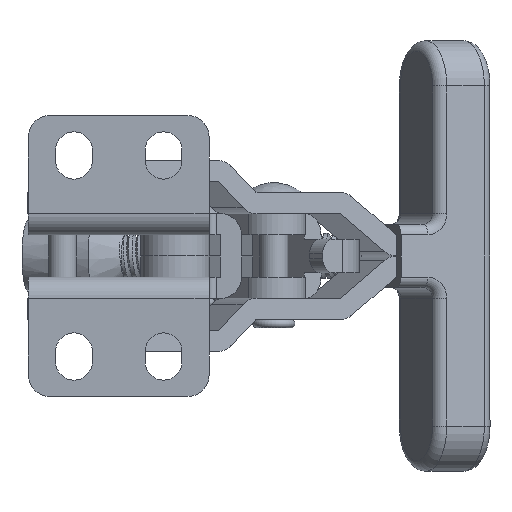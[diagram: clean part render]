
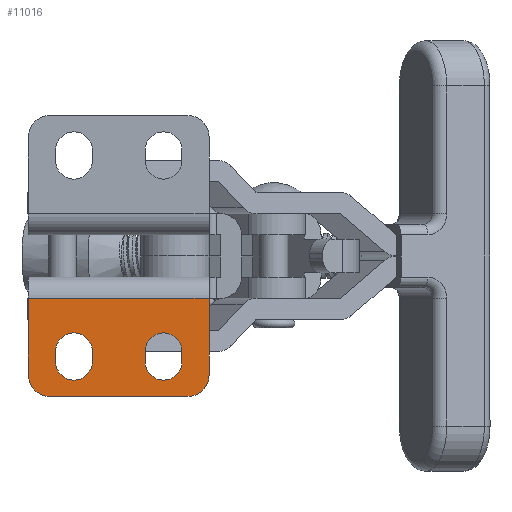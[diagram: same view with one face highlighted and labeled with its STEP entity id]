
A CAD part, front view. The second image highlights one B-rep face of the part: STEP entity #11016.
In plain terms, the highlighted planar face has unit normal (0, -1, 0).
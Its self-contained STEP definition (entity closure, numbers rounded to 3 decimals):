
#823=FACE_BOUND('',#1807,.T.);
#824=FACE_BOUND('',#1808,.T.);
#902=PLANE('',#11871);
#1183=FACE_OUTER_BOUND('',#1806,.T.);
#1806=EDGE_LOOP('',(#7596,#7597,#7598,#7599,#7600,#7601));
#1807=EDGE_LOOP('',(#7602,#7603,#7604,#7605));
#1808=EDGE_LOOP('',(#7606,#7607,#7608,#7609));
#2511=LINE('',#15115,#3444);
#2527=LINE('',#15157,#3460);
#2531=LINE('',#15165,#3464);
#2532=LINE('',#15169,#3465);
#2533=LINE('',#15172,#3466);
#2534=LINE('',#15174,#3467);
#2535=LINE('',#15177,#3468);
#2536=LINE('',#15179,#3469);
#3444=VECTOR('',#12680,1000.);
#3460=VECTOR('',#12724,1000.);
#3464=VECTOR('',#12732,1000.);
#3465=VECTOR('',#12735,1000.);
#3466=VECTOR('',#12738,1000.);
#3467=VECTOR('',#12739,1000.);
#3468=VECTOR('',#12742,1000.);
#3469=VECTOR('',#12743,1000.);
#4342=CIRCLE('',#11811,2.6);
#4344=CIRCLE('',#11814,2.6);
#4383=CIRCLE('',#11872,3.);
#4384=CIRCLE('',#11873,3.);
#4385=CIRCLE('',#11874,2.6);
#4386=CIRCLE('',#11875,2.6);
#4633=VERTEX_POINT('',#14967);
#4634=VERTEX_POINT('',#14968);
#4637=VERTEX_POINT('',#14976);
#4638=VERTEX_POINT('',#14977);
#4699=VERTEX_POINT('',#15112);
#4700=VERTEX_POINT('',#15114);
#4711=VERTEX_POINT('',#15155);
#4712=VERTEX_POINT('',#15156);
#4715=VERTEX_POINT('',#15166);
#4716=VERTEX_POINT('',#15168);
#4717=VERTEX_POINT('',#15171);
#4718=VERTEX_POINT('',#15173);
#4719=VERTEX_POINT('',#15176);
#4720=VERTEX_POINT('',#15178);
#5774=EDGE_CURVE('',#4633,#4634,#4342,.T.);
#5778=EDGE_CURVE('',#4637,#4638,#4344,.T.);
#5844=EDGE_CURVE('',#4699,#4700,#2511,.T.);
#5865=EDGE_CURVE('',#4711,#4712,#2527,.T.);
#5870=EDGE_CURVE('',#4699,#4711,#2531,.T.);
#5871=EDGE_CURVE('',#4715,#4712,#4383,.T.);
#5872=EDGE_CURVE('',#4715,#4716,#2532,.T.);
#5873=EDGE_CURVE('',#4700,#4716,#4384,.T.);
#5874=EDGE_CURVE('',#4634,#4717,#2533,.T.);
#5875=EDGE_CURVE('',#4718,#4633,#2534,.T.);
#5876=EDGE_CURVE('',#4717,#4718,#4385,.T.);
#5877=EDGE_CURVE('',#4638,#4719,#2535,.T.);
#5878=EDGE_CURVE('',#4720,#4637,#2536,.T.);
#5879=EDGE_CURVE('',#4719,#4720,#4386,.T.);
#7596=ORIENTED_EDGE('',*,*,#5844,.F.);
#7597=ORIENTED_EDGE('',*,*,#5870,.T.);
#7598=ORIENTED_EDGE('',*,*,#5865,.T.);
#7599=ORIENTED_EDGE('',*,*,#5871,.F.);
#7600=ORIENTED_EDGE('',*,*,#5872,.T.);
#7601=ORIENTED_EDGE('',*,*,#5873,.F.);
#7602=ORIENTED_EDGE('',*,*,#5874,.F.);
#7603=ORIENTED_EDGE('',*,*,#5774,.F.);
#7604=ORIENTED_EDGE('',*,*,#5875,.F.);
#7605=ORIENTED_EDGE('',*,*,#5876,.F.);
#7606=ORIENTED_EDGE('',*,*,#5877,.F.);
#7607=ORIENTED_EDGE('',*,*,#5778,.F.);
#7608=ORIENTED_EDGE('',*,*,#5878,.F.);
#7609=ORIENTED_EDGE('',*,*,#5879,.F.);
#11016=ADVANCED_FACE('',(#1183,#823,#824),#902,.F.);
#11811=AXIS2_PLACEMENT_3D('',#14969,#12555,#12556);
#11814=AXIS2_PLACEMENT_3D('',#14978,#12563,#12564);
#11871=AXIS2_PLACEMENT_3D('',#15164,#12730,#12731);
#11872=AXIS2_PLACEMENT_3D('',#15167,#12733,#12734);
#11873=AXIS2_PLACEMENT_3D('',#15170,#12736,#12737);
#11874=AXIS2_PLACEMENT_3D('',#15175,#12740,#12741);
#11875=AXIS2_PLACEMENT_3D('',#15180,#12744,#12745);
#12555=DIRECTION('center_axis',(0.,-1.,0.));
#12556=DIRECTION('ref_axis',(-1.,0.,0.));
#12563=DIRECTION('center_axis',(0.,-1.,0.));
#12564=DIRECTION('ref_axis',(-1.,0.,0.));
#12680=DIRECTION('',(0.,0.,-1.));
#12724=DIRECTION('',(0.,0.,-1.));
#12730=DIRECTION('center_axis',(0.,1.,0.));
#12731=DIRECTION('ref_axis',(-1.,0.,0.));
#12732=DIRECTION('',(-1.,0.,0.));
#12733=DIRECTION('center_axis',(0.,1.,0.));
#12734=DIRECTION('ref_axis',(-1.,0.,0.));
#12735=DIRECTION('',(1.,0.,0.));
#12736=DIRECTION('center_axis',(0.,1.,0.));
#12737=DIRECTION('ref_axis',(-1.,0.,0.));
#12738=DIRECTION('',(0.,0.,1.));
#12739=DIRECTION('',(0.,0.,-1.));
#12740=DIRECTION('center_axis',(0.,-1.,0.));
#12741=DIRECTION('ref_axis',(-1.,0.,0.));
#12742=DIRECTION('',(0.,0.,1.));
#12743=DIRECTION('',(0.,0.,-1.));
#12744=DIRECTION('center_axis',(0.,-1.,0.));
#12745=DIRECTION('ref_axis',(-1.,0.,0.));
#14967=CARTESIAN_POINT('',(-21.75,0.,-9.));
#14968=CARTESIAN_POINT('',(-16.55,0.,-9.));
#14969=CARTESIAN_POINT('Origin',(-19.15,0.,-9.));
#14976=CARTESIAN_POINT('',(-9.05,0.,-9.));
#14977=CARTESIAN_POINT('',(-3.85,0.,-9.));
#14978=CARTESIAN_POINT('Origin',(-6.45,0.,-9.));
#15112=CARTESIAN_POINT('',(0.,0.,0.));
#15114=CARTESIAN_POINT('',(0.,0.,-10.9));
#15115=CARTESIAN_POINT('',(0.,0.,12.));
#15155=CARTESIAN_POINT('',(-25.6,0.,0.));
#15156=CARTESIAN_POINT('',(-25.6,0.,-10.9));
#15157=CARTESIAN_POINT('',(-25.6,0.,12.));
#15164=CARTESIAN_POINT('Origin',(0.,0.,12.));
#15165=CARTESIAN_POINT('',(0.,0.,0.));
#15166=CARTESIAN_POINT('',(-22.6,0.,-13.9));
#15167=CARTESIAN_POINT('Origin',(-22.6,0.,-10.9));
#15168=CARTESIAN_POINT('',(-3.,0.,-13.9));
#15169=CARTESIAN_POINT('',(0.,0.,-13.9));
#15170=CARTESIAN_POINT('Origin',(-3.,0.,-10.9));
#15171=CARTESIAN_POINT('',(-16.55,0.,-7.5));
#15172=CARTESIAN_POINT('',(-16.55,0.,0.));
#15173=CARTESIAN_POINT('',(-21.75,0.,-7.5));
#15174=CARTESIAN_POINT('',(-21.75,0.,0.));
#15175=CARTESIAN_POINT('Origin',(-19.15,0.,-7.5));
#15176=CARTESIAN_POINT('',(-3.85,0.,-7.5));
#15177=CARTESIAN_POINT('',(-3.85,0.,0.));
#15178=CARTESIAN_POINT('',(-9.05,0.,-7.5));
#15179=CARTESIAN_POINT('',(-9.05,0.,0.));
#15180=CARTESIAN_POINT('Origin',(-6.45,0.,-7.5));
